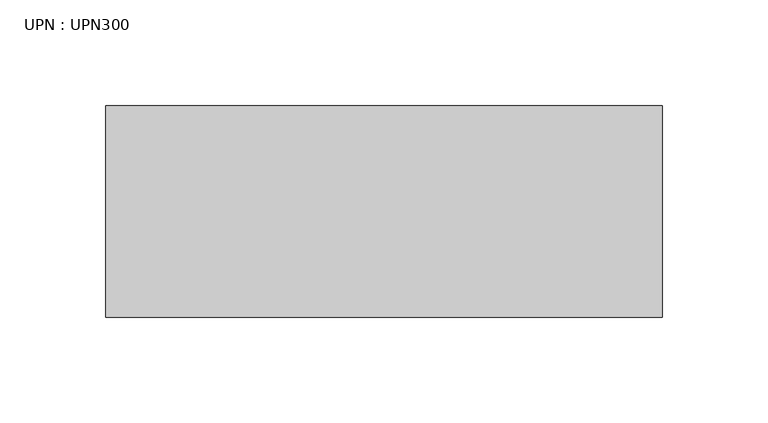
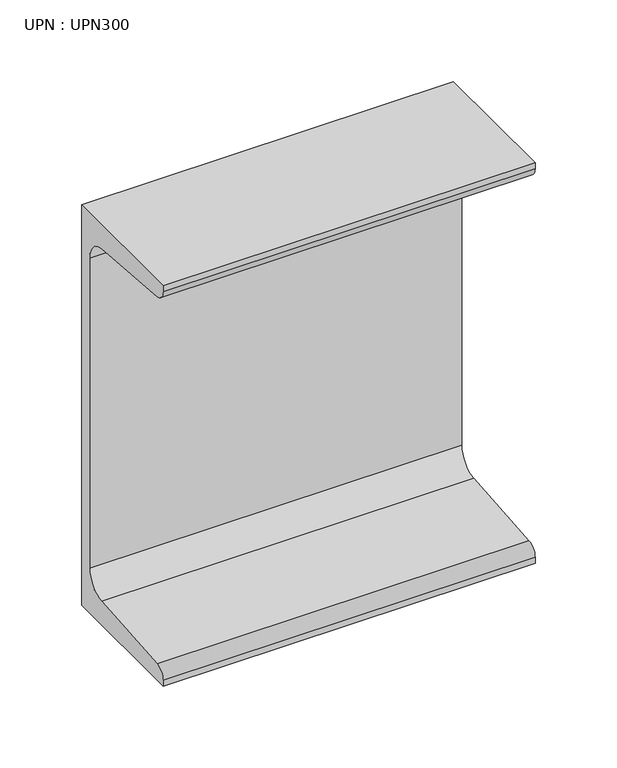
"""IFC4 building model written with IfcOpenShell, lengths in millimetres: beam geometry, UPN : UPN300."""

from ifc_helpers import new_model, si_unit, point, frame, frame_2d, origin, place, context, project, spatial, polyline, circle_curve, trimmed, segment, composite_curve, outline, extrude, source, transform, mapped, element, save


def upn_upn300_4ded30ec(model_context):
    return source(origin(), model_context, "Body", "SweptSolid", [
        extrude(outline(composite_curve([segment(polyline([(27.0, 150.0), (27.0, -150.0), (-73.0, -150.0), (-73.0, -145.3826224)]), True, "CONTINUOUS"), segment(trimmed(circle_curve(frame_2d((-65.0, -145.3826224)), 8.0), [point((-73.0, -145.3826224))], [point((-65.637416, -137.4080566))], False, "CARTESIAN"), True, "CONTINUOUS"), segment(polyline([(-65.637416, -137.4080566), (2.274832, -131.9797543)]), True, "CONTINUOUS"), segment(trimmed(circle_curve(frame_2d((1.0, -116.0306225)), 16.0), [point((2.274832, -131.9797543))], [point((17.0, -116.0306225))], True, "CARTESIAN"), True, "CONTINUOUS"), segment(polyline([(17.0, -116.0306225), (17.0, 116.0306225)]), True, "CONTINUOUS"), segment(trimmed(circle_curve(frame_2d((1.0, 116.0306225)), 16.0), [point((17.0, 116.0306225))], [point((2.274832, 131.9797543))], True, "CARTESIAN"), True, "CONTINUOUS"), segment(polyline([(2.274832, 131.9797543), (-65.637416, 137.4080566)]), True, "CONTINUOUS"), segment(trimmed(circle_curve(frame_2d((-65.0, 145.3826224)), 8.0), [point((-65.637416, 137.4080566))], [point((-73.0, 145.3826224))], False, "CARTESIAN"), True, "CONTINUOUS"), segment(polyline([(-73.0, 145.3826224), (-73.0, 150.0), (27.0, 150.0)]), True, "CONTINUOUS")], self_intersect=False)), frame((-125.3, 0.0, 0.0), z_axis=(1.0, 0.0, 0.0), x_axis=(0.0, 1.0, 0.0)), (0.0, 0.0, 1.0), 263.349101),
    ])


if __name__ == "__main__":
    model = new_model("IFC4")
    model_context = context("Model", 3, world=origin())
    ifc_project = project(units=[si_unit("LENGTHUNIT", "METRE", prefix="MILLI")], contexts=[model_context])
    site = spatial("IfcSite", under=ifc_project)
    building = spatial("IfcBuilding", under=site)
    placement = place(None, origin())
    upn_upn300_shape = upn_upn300_4ded30ec(model_context)
    element("IfcBeam", 1, ObjectType="UPN : UPN300", at=placement, inside=building, context=model_context, shape_type="MappedRepresentation", body=[
        mapped(upn_upn300_shape, transform((0.0, 0.0, 0.0), x_axis=(1.0, 0.0, 0.0), y_axis=(0.0, 1.0, 0.0), z_axis=(0.0, 0.0, 1.0))),
    ])
    save(model, "model.ifc")
